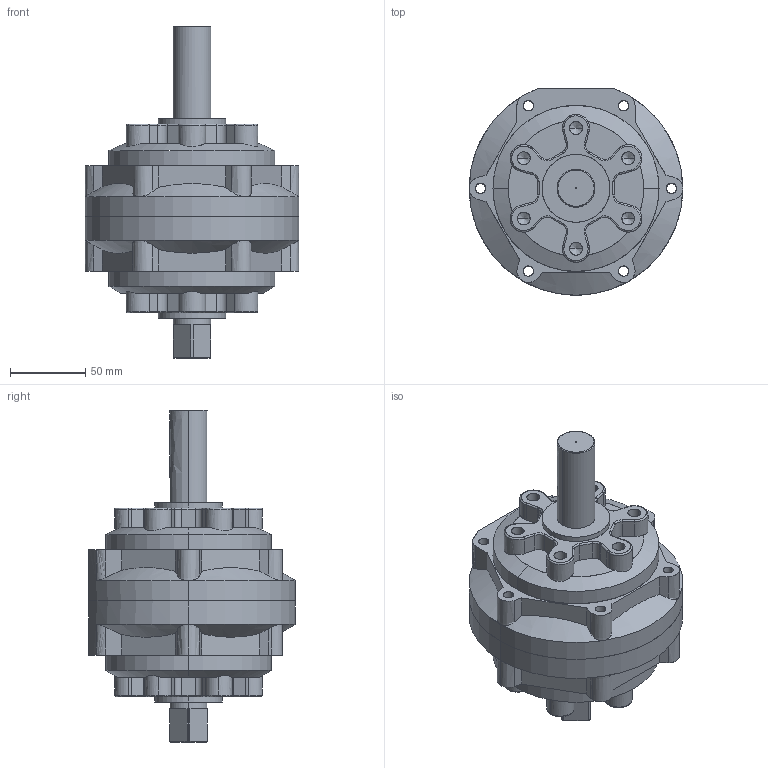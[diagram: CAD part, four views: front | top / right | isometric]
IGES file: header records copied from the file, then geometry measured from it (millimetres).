
Start section: SolidWorks IGES file using analytic representation for surfaces
Global section: file name: C:\Users\Chieh_Lu\Dropbox\¤u§@«Ç\PRN50-150-300-800\PRN300\PRN300\PRN300.IGS; native system: SolidWorks 2014; preprocessor: SolidWorks 2014; author: Chieh_Lu; date: 160115.004451; units: millimetre
Bounding box: 141.5 x 136.88 x 220 mm (x, y, z)
Surface area: 153393.4 mm2 (no closed solid volume)
Topology: 0 solids, 0 shells, 494 faces, 6272 edges, 6244 vertices
Faces by surface type: revolution 258, bspline 236
